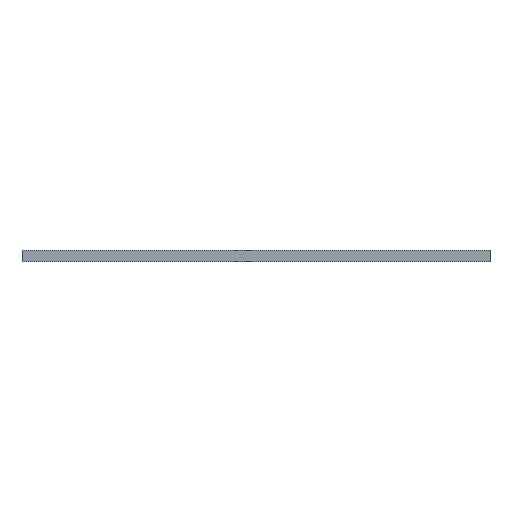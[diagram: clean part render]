
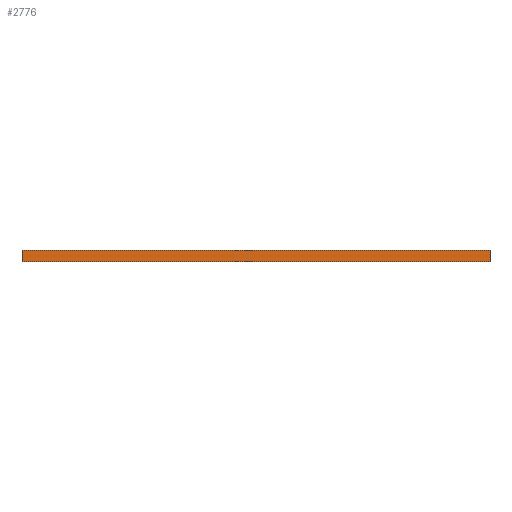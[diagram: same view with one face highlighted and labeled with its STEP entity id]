
A CAD part, top view. The second image highlights one B-rep face of the part: STEP entity #2776.
In plain terms, the highlighted planar face has unit normal (0, 0, 1).
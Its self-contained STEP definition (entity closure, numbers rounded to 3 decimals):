
#4 = VERTEX_POINT ( 'NONE', #424 ) ;
#96 = VERTEX_POINT ( 'NONE', #102 ) ;
#102 = CARTESIAN_POINT ( 'NONE',  ( -1000., -24.8, 6.25 ) ) ;
#107 = CARTESIAN_POINT ( 'NONE',  ( -1000., 24.8, 6.25 ) ) ;
#149 = VECTOR ( 'NONE', #2520, 1000. ) ;
#213 = DIRECTION ( 'NONE',  ( 0., -1., 0. ) ) ;
#222 = PLANE ( 'NONE',  #3100 ) ;
#424 = CARTESIAN_POINT ( 'NONE',  ( 1000., -24.8, 6.25 ) ) ;
#595 = EDGE_CURVE ( 'NONE', #96, #4, #945, .T. ) ;
#645 = DIRECTION ( 'NONE',  ( 1., 0., 0. ) ) ;
#737 = VERTEX_POINT ( 'NONE', #3243 ) ;
#765 = ORIENTED_EDGE ( 'NONE', *, *, #4133, .T. ) ;
#945 = LINE ( 'NONE', #3114, #2067 ) ;
#1061 = VECTOR ( 'NONE', #3893, 1000. ) ;
#1259 = VERTEX_POINT ( 'NONE', #4387 ) ;
#1407 = CARTESIAN_POINT ( 'NONE',  ( -1000., 24.8, 6.25 ) ) ;
#2067 = VECTOR ( 'NONE', #4635, 1000. ) ;
#2520 = DIRECTION ( 'NONE',  ( 0., -1., 0. ) ) ;
#2527 = CARTESIAN_POINT ( 'NONE',  ( -1000., 24.8, 6.25 ) ) ;
#2644 = ORIENTED_EDGE ( 'NONE', *, *, #595, .T. ) ;
#2776 = ADVANCED_FACE ( 'NONE', ( #3630 ), #222, .T. ) ;
#2854 = LINE ( 'NONE', #2527, #3765 ) ;
#2950 = EDGE_LOOP ( 'NONE', ( #2644, #3524, #3507, #765 ) ) ;
#3100 = AXIS2_PLACEMENT_3D ( 'NONE', #1407, #3307, #645 ) ;
#3114 = CARTESIAN_POINT ( 'NONE',  ( -1000., -24.8, 6.25 ) ) ;
#3243 = CARTESIAN_POINT ( 'NONE',  ( 1000., 24.8, 6.25 ) ) ;
#3280 = EDGE_CURVE ( 'NONE', #737, #4, #4038, .T. ) ;
#3307 = DIRECTION ( 'NONE',  ( 0., 0., 1. ) ) ;
#3507 = ORIENTED_EDGE ( 'NONE', *, *, #4325, .F. ) ;
#3524 = ORIENTED_EDGE ( 'NONE', *, *, #3280, .F. ) ;
#3630 = FACE_OUTER_BOUND ( 'NONE', #2950, .T. ) ;
#3765 = VECTOR ( 'NONE', #213, 1000. ) ;
#3893 = DIRECTION ( 'NONE',  ( 1., 0., 0. ) ) ;
#4038 = LINE ( 'NONE', #4855, #149 ) ;
#4133 = EDGE_CURVE ( 'NONE', #1259, #96, #2854, .T. ) ;
#4325 = EDGE_CURVE ( 'NONE', #1259, #737, #4712, .T. ) ;
#4387 = CARTESIAN_POINT ( 'NONE',  ( -1000., 24.8, 6.25 ) ) ;
#4635 = DIRECTION ( 'NONE',  ( 1., 0., 0. ) ) ;
#4712 = LINE ( 'NONE', #107, #1061 ) ;
#4855 = CARTESIAN_POINT ( 'NONE',  ( 1000., 24.8, 6.25 ) ) ;
